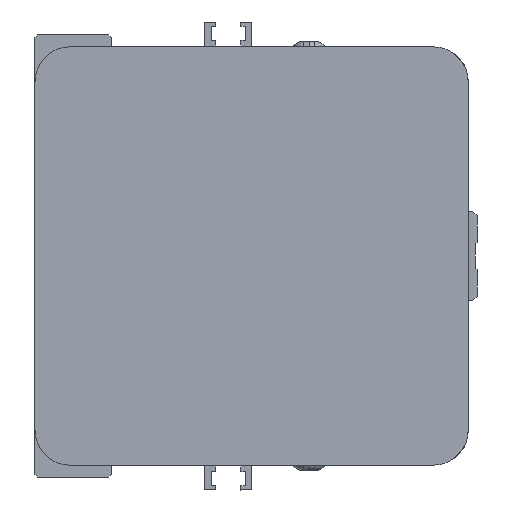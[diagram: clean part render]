
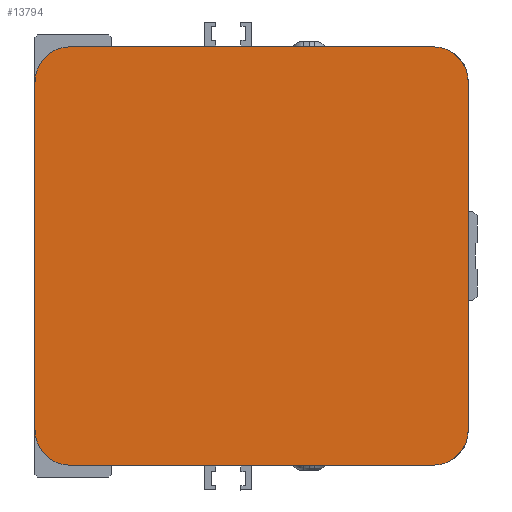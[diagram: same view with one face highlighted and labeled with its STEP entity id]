
A CAD part, left-side view. The second image highlights one B-rep face of the part: STEP entity #13794.
In plain terms, the highlighted planar face has unit normal (-1, 0, 0) as drawn and (0, 0, -1) by its records, which use the part's own axes.
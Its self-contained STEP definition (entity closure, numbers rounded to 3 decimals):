
#1004=CIRCLE('',#14787,6.);
#1005=CIRCLE('',#14792,6.);
#1013=CIRCLE('',#14803,6.);
#1014=CIRCLE('',#14805,6.);
#1696=FACE_OUTER_BOUND('',#2539,.T.);
#2539=EDGE_LOOP('',(#9646,#9647,#9648,#9649,#9650,#9651,#9652,#9653));
#3637=LINE('',#19420,#4909);
#3642=LINE('',#19431,#4914);
#3649=LINE('',#19446,#4921);
#3653=LINE('',#19531,#4925);
#4909=VECTOR('',#16077,61.5);
#4914=VECTOR('',#16088,59.);
#4921=VECTOR('',#16105,61.5);
#4925=VECTOR('',#16131,59.);
#6180=VERTEX_POINT('',#19416);
#6182=VERTEX_POINT('',#19419);
#6183=VERTEX_POINT('',#19424);
#6185=VERTEX_POINT('',#19430);
#6187=VERTEX_POINT('',#19441);
#6188=VERTEX_POINT('',#19445);
#6197=VERTEX_POINT('',#19526);
#6198=VERTEX_POINT('',#19530);
#7577=EDGE_CURVE('',#6182,#6180,#3637,.T.);
#7580=EDGE_CURVE('',#6182,#6183,#1004,.T.);
#7583=EDGE_CURVE('',#6185,#6183,#3642,.T.);
#7589=EDGE_CURVE('',#6185,#6187,#1005,.T.);
#7591=EDGE_CURVE('',#6188,#6187,#3649,.T.);
#7604=EDGE_CURVE('',#6197,#6180,#1013,.T.);
#7605=EDGE_CURVE('',#6197,#6198,#3653,.T.);
#7606=EDGE_CURVE('',#6188,#6198,#1014,.T.);
#9646=ORIENTED_EDGE('',*,*,#7589,.F.);
#9647=ORIENTED_EDGE('',*,*,#7583,.T.);
#9648=ORIENTED_EDGE('',*,*,#7580,.F.);
#9649=ORIENTED_EDGE('',*,*,#7577,.T.);
#9650=ORIENTED_EDGE('',*,*,#7604,.F.);
#9651=ORIENTED_EDGE('',*,*,#7605,.T.);
#9652=ORIENTED_EDGE('',*,*,#7606,.F.);
#9653=ORIENTED_EDGE('',*,*,#7591,.T.);
#13267=PLANE('',#14804);
#13794=ADVANCED_FACE('',(#1696),#13267,.F.);
#14787=AXIS2_PLACEMENT_3D('',#19425,#16082,#16083);
#14792=AXIS2_PLACEMENT_3D('',#19442,#16100,#16101);
#14803=AXIS2_PLACEMENT_3D('',#19528,#16127,#16128);
#14804=AXIS2_PLACEMENT_3D('',#19529,#16129,#16130);
#14805=AXIS2_PLACEMENT_3D('',#19532,#16132,#16133);
#16077=DIRECTION('',(0.,-1.,0.));
#16082=DIRECTION('center_axis',(0.,0.,
1.));
#16083=DIRECTION('ref_axis',(0.707,0.707,0.));
#16088=DIRECTION('',(1.,0.,0.));
#16100=DIRECTION('center_axis',(0.,0.,
1.));
#16101=DIRECTION('ref_axis',(-0.707,0.707,0.));
#16105=DIRECTION('',(0.,1.,0.));
#16127=DIRECTION('center_axis',(0.,0.,
1.));
#16128=DIRECTION('ref_axis',(0.707,-0.707,0.));
#16129=DIRECTION('center_axis',(0.,0.,
1.));
#16130=DIRECTION('ref_axis',(1.,0.,0.));
#16131=DIRECTION('',(-1.,0.,0.));
#16132=DIRECTION('center_axis',(0.,0.,
1.));
#16133=DIRECTION('ref_axis',(-0.707,-0.707,0.));
#19416=CARTESIAN_POINT('',(75.2,7.5,-657.));
#19419=CARTESIAN_POINT('',(75.2,69.,-657.));
#19420=CARTESIAN_POINT('',(75.2,69.,-657.));
#19424=CARTESIAN_POINT('',(69.2,75.,-657.));
#19425=CARTESIAN_POINT('Origin',(69.2,69.,-657.));
#19430=CARTESIAN_POINT('',(10.2,75.,-657.));
#19431=CARTESIAN_POINT('',(10.2,75.,-657.));
#19441=CARTESIAN_POINT('',(4.2,69.,-657.));
#19442=CARTESIAN_POINT('Origin',(10.2,69.,-657.));
#19445=CARTESIAN_POINT('',(4.2,7.5,-657.));
#19446=CARTESIAN_POINT('',(4.2,7.5,-657.));
#19526=CARTESIAN_POINT('',(69.2,1.5,-657.));
#19528=CARTESIAN_POINT('Origin',(69.2,7.5,-657.));
#19529=CARTESIAN_POINT('Origin',(39.7,38.25,-657.));
#19530=CARTESIAN_POINT('',(10.2,1.5,-657.));
#19531=CARTESIAN_POINT('',(69.2,1.5,-657.));
#19532=CARTESIAN_POINT('Origin',(10.2,7.5,-657.));
